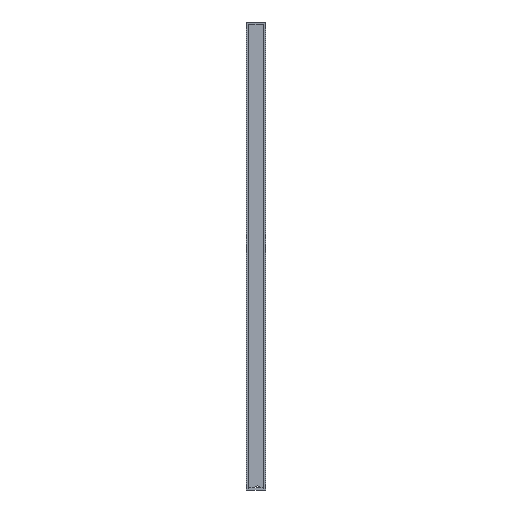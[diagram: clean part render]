
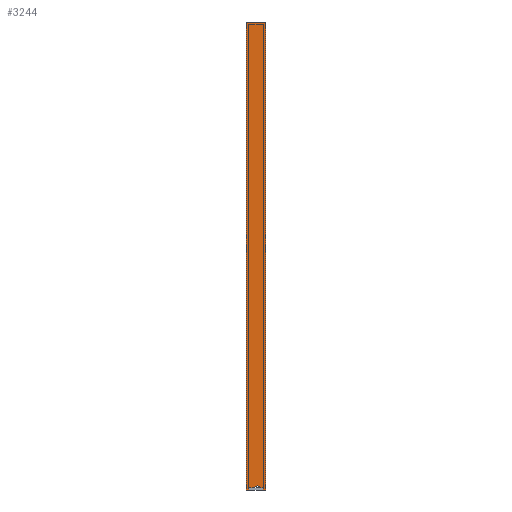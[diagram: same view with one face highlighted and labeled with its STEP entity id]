
A CAD part, front view. The second image highlights one B-rep face of the part: STEP entity #3244.
In plain terms, the highlighted planar face has unit normal (0, -1, 0).
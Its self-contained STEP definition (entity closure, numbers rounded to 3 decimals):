
#3104 = VERTEX_POINT('',#3105);
#3105 = CARTESIAN_POINT('',(579.6,418.032,12.7));
#3113 = EDGE_CURVE('',#3104,#3114,#3116,.T.);
#3114 = VERTEX_POINT('',#3115);
#3115 = CARTESIAN_POINT('',(579.6,418.032,624.468));
#3116 = LINE('',#3117,#3118);
#3117 = CARTESIAN_POINT('',(579.6,418.032,12.7));
#3118 = VECTOR('',#3119,1.);
#3119 = DIRECTION('',(0.,0.,1.));
#3210 = EDGE_CURVE('',#3104,#3211,#3213,.T.);
#3211 = VERTEX_POINT('',#3212);
#3212 = CARTESIAN_POINT('',(582.775,418.032,12.7));
#3213 = LINE('',#3214,#3215);
#3214 = CARTESIAN_POINT('',(579.6,418.032,12.7));
#3215 = VECTOR('',#3216,1.);
#3216 = DIRECTION('',(1.,0.,0.));
#3244 = ADVANCED_FACE('',(#3245),#3321,.T.);
#3245 = FACE_BOUND('',#3246,.T.);
#3246 = EDGE_LOOP('',(#3247,#3248,#3249,#3257,#3265,#3274,#3283,#3291,
    #3299,#3307,#3315));
#3247 = ORIENTED_EDGE('',*,*,#3113,.F.);
#3248 = ORIENTED_EDGE('',*,*,#3210,.T.);
#3249 = ORIENTED_EDGE('',*,*,#3250,.F.);
#3250 = EDGE_CURVE('',#3251,#3211,#3253,.T.);
#3251 = VERTEX_POINT('',#3252);
#3252 = CARTESIAN_POINT('',(582.775,418.032,15.875));
#3253 = LINE('',#3254,#3255);
#3254 = CARTESIAN_POINT('',(582.775,418.032,12.65));
#3255 = VECTOR('',#3256,1.);
#3256 = DIRECTION('',(0.,0.,-1.));
#3257 = ORIENTED_EDGE('',*,*,#3258,.T.);
#3258 = EDGE_CURVE('',#3251,#3259,#3261,.T.);
#3259 = VERTEX_POINT('',#3260);
#3260 = CARTESIAN_POINT('',(590.135,418.032,15.875));
#3261 = LINE('',#3262,#3263);
#3262 = CARTESIAN_POINT('',(581.188,418.032,15.875));
#3263 = VECTOR('',#3264,1.);
#3264 = DIRECTION('',(1.,0.,0.));
#3265 = ORIENTED_EDGE('',*,*,#3266,.T.);
#3266 = EDGE_CURVE('',#3259,#3267,#3269,.T.);
#3267 = VERTEX_POINT('',#3268);
#3268 = CARTESIAN_POINT('',(594.332,418.032,17.963));
#3269 = CIRCLE('',#3270,5.263);
#3270 = AXIS2_PLACEMENT_3D('',#3271,#3272,#3273);
#3271 = CARTESIAN_POINT('',(594.332,418.032,12.7));
#3272 = DIRECTION('',(0.,1.,0.));
#3273 = DIRECTION('',(0.,0.,1.));
#3274 = ORIENTED_EDGE('',*,*,#3275,.T.);
#3275 = EDGE_CURVE('',#3267,#3276,#3278,.T.);
#3276 = VERTEX_POINT('',#3277);
#3277 = CARTESIAN_POINT('',(598.529,418.032,15.875));
#3278 = CIRCLE('',#3279,5.263);
#3279 = AXIS2_PLACEMENT_3D('',#3280,#3281,#3282);
#3280 = CARTESIAN_POINT('',(594.332,418.032,12.7));
#3281 = DIRECTION('',(0.,1.,0.));
#3282 = DIRECTION('',(0.,0.,1.));
#3283 = ORIENTED_EDGE('',*,*,#3284,.T.);
#3284 = EDGE_CURVE('',#3276,#3285,#3287,.T.);
#3285 = VERTEX_POINT('',#3286);
#3286 = CARTESIAN_POINT('',(601.825,418.032,15.875));
#3287 = LINE('',#3288,#3289);
#3288 = CARTESIAN_POINT('',(581.188,418.032,15.875));
#3289 = VECTOR('',#3290,1.);
#3290 = DIRECTION('',(1.,0.,0.));
#3291 = ORIENTED_EDGE('',*,*,#3292,.T.);
#3292 = EDGE_CURVE('',#3285,#3293,#3295,.T.);
#3293 = VERTEX_POINT('',#3294);
#3294 = CARTESIAN_POINT('',(601.825,418.032,12.7));
#3295 = LINE('',#3296,#3297);
#3296 = CARTESIAN_POINT('',(601.825,418.032,12.65));
#3297 = VECTOR('',#3298,1.);
#3298 = DIRECTION('',(0.,0.,-1.));
#3299 = ORIENTED_EDGE('',*,*,#3300,.T.);
#3300 = EDGE_CURVE('',#3293,#3301,#3303,.T.);
#3301 = VERTEX_POINT('',#3302);
#3302 = CARTESIAN_POINT('',(605.,418.032,12.7));
#3303 = LINE('',#3304,#3305);
#3304 = CARTESIAN_POINT('',(579.6,418.032,12.7));
#3305 = VECTOR('',#3306,1.);
#3306 = DIRECTION('',(1.,0.,0.));
#3307 = ORIENTED_EDGE('',*,*,#3308,.T.);
#3308 = EDGE_CURVE('',#3301,#3309,#3311,.T.);
#3309 = VERTEX_POINT('',#3310);
#3310 = CARTESIAN_POINT('',(605.,418.032,624.468));
#3311 = LINE('',#3312,#3313);
#3312 = CARTESIAN_POINT('',(605.,418.032,12.7));
#3313 = VECTOR('',#3314,1.);
#3314 = DIRECTION('',(0.,0.,1.));
#3315 = ORIENTED_EDGE('',*,*,#3316,.F.);
#3316 = EDGE_CURVE('',#3114,#3309,#3317,.T.);
#3317 = LINE('',#3318,#3319);
#3318 = CARTESIAN_POINT('',(579.6,418.032,624.468));
#3319 = VECTOR('',#3320,1.);
#3320 = DIRECTION('',(1.,0.,0.));
#3321 = PLANE('',#3322);
#3322 = AXIS2_PLACEMENT_3D('',#3323,#3324,#3325);
#3323 = CARTESIAN_POINT('',(592.3,418.032,317.122));
#3324 = DIRECTION('',(-0.,-1.,-0.));
#3325 = DIRECTION('',(0.,0.,-1.));
